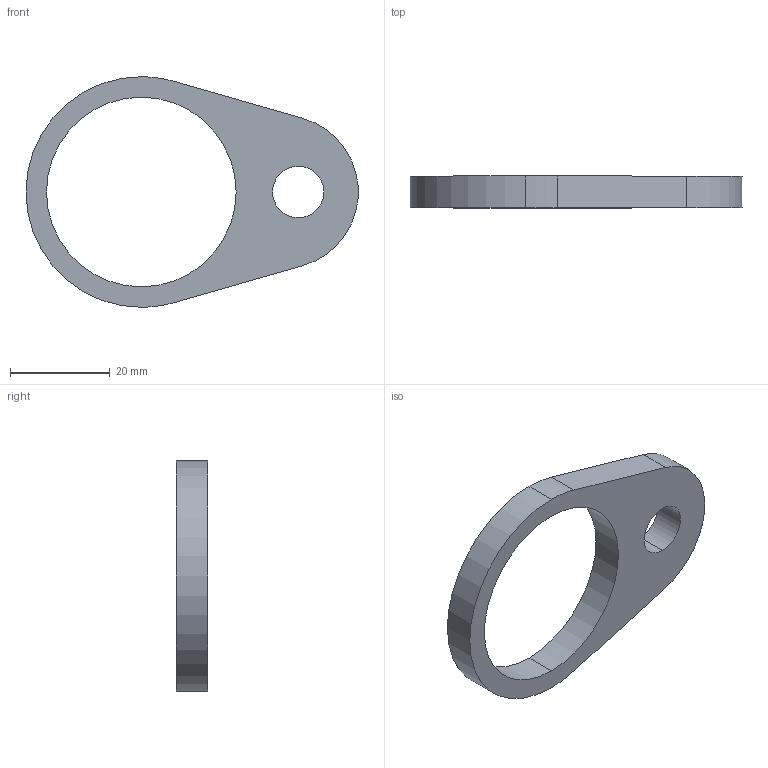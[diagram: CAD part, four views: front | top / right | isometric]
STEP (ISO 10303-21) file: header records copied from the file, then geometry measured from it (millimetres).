
FILE_DESCRIPTION (( 'STEP AP214' ), '1' );
FILE_NAME ('GasSpringClamp-A-38.stp', '2011-04-26T18:57:05', ( '' ), ( '' ), 'SwSTEP 2.0', 'SolidWorks 2010', '' );
FILE_SCHEMA (( 'AUTOMOTIVE_DESIGN' ));
Length unit declared in the file: inch
Products named in the file (1): GasSpringClamp-A-38
Bounding box: 66.53 x 6.35 x 46.23 mm (x, y, z)
Volume: 7082.8 mm3; surface area: 4332.8 mm2
Topology: 1 solids, 1 shells, 12 faces, 30 edges, 20 vertices
Faces by surface type: cylinder 8, plane 4
Entity records: 418 total; most frequent: DIRECTION 72, CARTESIAN_POINT 63, ORIENTED_EDGE 60, EDGE_CURVE 30, AXIS2_PLACEMENT_3D 29, VERTEX_POINT 20, EDGE_LOOP 16, CIRCLE 16
